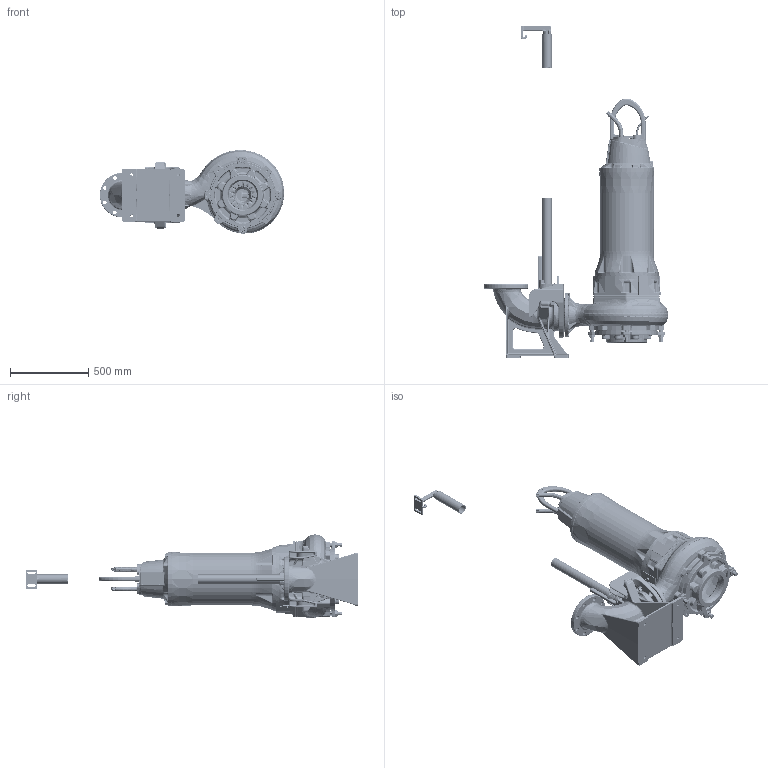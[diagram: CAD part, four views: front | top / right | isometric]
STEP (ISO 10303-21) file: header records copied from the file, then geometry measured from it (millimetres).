
FILE_DESCRIPTION (( 'STEP AP214' ), '1' );
FILE_NAME ('SE4 CFP 155J-CB2 Wet Well.STEP', '2020-09-21T14:05:57', ( '' ), ( '' ), 'SwSTEP 2.0', 'SolidWorks 2017', '' );
FILE_SCHEMA (( 'AUTOMOTIVE_DESIGN' ));
Length unit declared in the file: millimetre
Products named in the file (1): SE4 CFP 155J-CB2 Wet Well
Bounding box: 1180.59 x 2125 x 536.4 mm (x, y, z)
Volume: 57674039.8 mm3; surface area: 7502881.4 mm2
Topology: 52 solids, 52 shells, 7116 faces, 17434 edges, 10168 vertices
Faces by surface type: bspline 2280, cylinder 1699, plane 1340, cone 790, torus 719, sphere 288
Entity records: 456896 total; most frequent: CARTESIAN_POINT 229704, ORIENTED_EDGE 33948, DIRECTION 27457, EDGE_CURVE 16974, AXIS2_PLACEMENT_3D 11399, VERTEX_POINT 10151, EDGE_LOOP 7525, UNCERTAINTY_MEASURE_WITH_UNIT 7170
